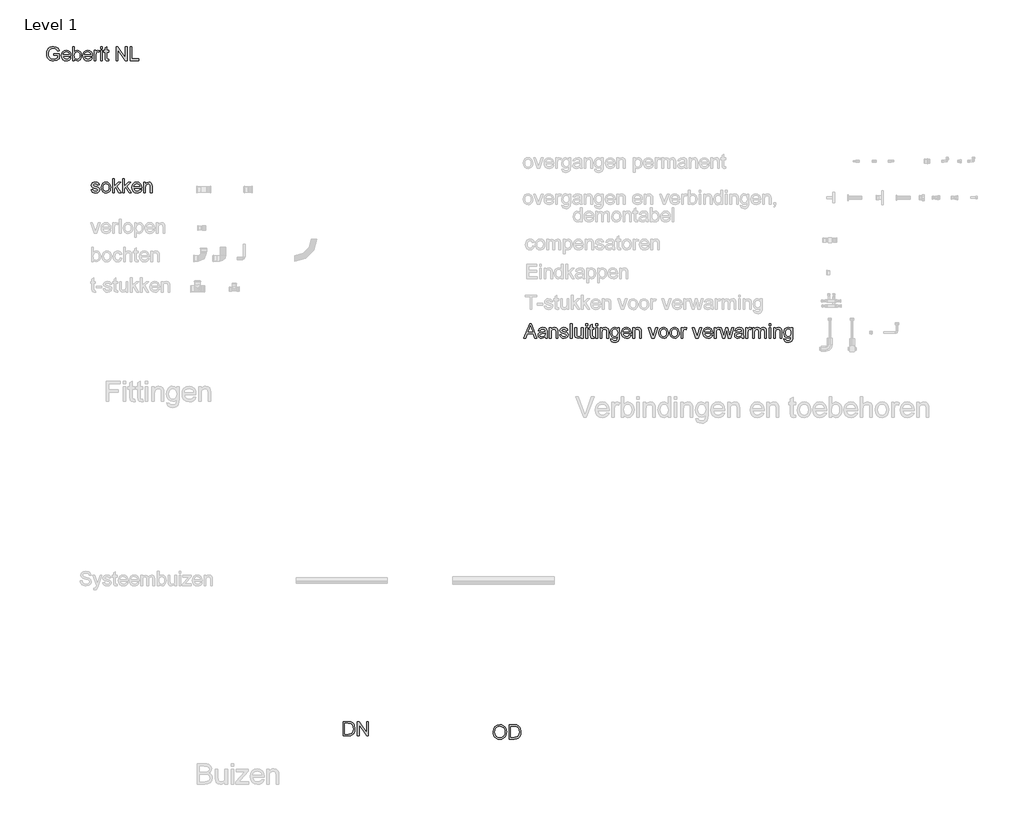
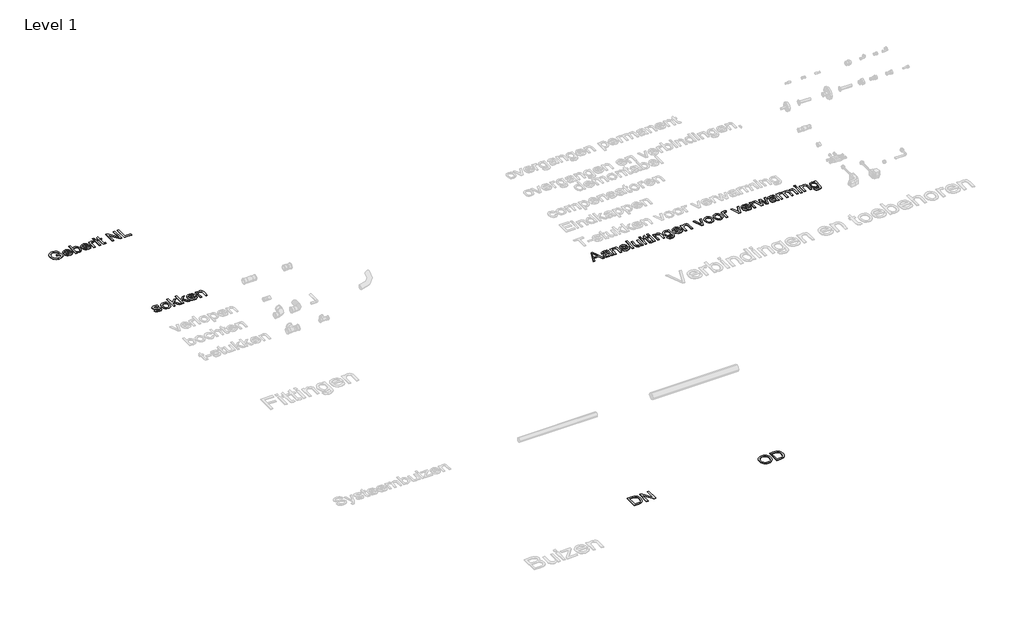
# One storey, part 3 of 8: 5 proxies.
"""IFC4 building model written with IfcOpenShell, lengths in millimetres."""

from ifc_helpers import new_model, si_unit, origin, origin_with_axes, place, context, project, spatial, polyline, outline, extrude, element, save

model = new_model("IFC4")

# Units and contexts
model_context = context("Model", 3, world=origin())
ifc_project = project(units=[si_unit("LENGTHUNIT", "METRE", prefix="MILLI")], contexts=[model_context])

# Site, building, storey
site = spatial("IfcSite", under=ifc_project)
building = spatial("IfcBuilding", under=site)
storey = spatial("IfcBuildingStorey", under=building, Name="Level 1", Elevation=0.0)

# Proxies
placement = place(None, origin())
element("IfcBuildingElementProxy", 1, Name="small", ObjectType="small", at=placement, inside=storey, context=model_context, shape_type="SweptSolid", body=[
    extrude(outline(polyline([(-2002.5257201, 6696.9325117), (-2002.5257201, 6714.1632809), (-1946.5257201, 6714.1632809), (-1946.5257201, 6662.6392425), (-1974.1723547, 6646.3844348), (-2003.4007201, 6640.9325117), (-2022.730648, 6643.0989781), (-2040.2012009, 6649.5983771), (-2054.714422, 6660.2035454), (-2065.1723547, 6674.6873194), (-2071.4950711, 6692.0611175), (-2073.6026432, 6711.3363579), (-2071.5034845, 6730.7504204), (-2065.2060086, 6748.8099156), (-2054.9710326, 6763.9583531), (-2041.0593739, 6774.6392425), (-2024.1146624, 6780.974579), (-2004.7805278, 6783.0863579), (-1977.823797, 6778.1897233), (-1958.9271624, 6764.5599156), (-1948.511297, 6741.7594348), (-1964.3959124, 6737.2834733), (-1972.2540855, 6753.2185694), (-1985.6819701, 6762.4060694), (-2005.0497586, 6765.8555886), (-2027.1098547, 6762.1368386), (-2042.1194701, 6752.3772233), (-2050.9872586, 6739.1007809), (-2056.3718739, 6712.0430886), (-2054.7522826, 6695.5653242), (-2049.8935086, 6682.0070309), (-2041.9427874, 6671.4649636), (-2031.0473547, 6664.0358771), (-2004.7805278, 6658.1632809), (-1981.2060086, 6662.5887617), (-1963.7564893, 6672.0286656), (-1963.7564893, 6696.9325117), (-2002.5257201, 6696.9325117)])), origin_with_axes(), (0.0, 0.0, 1.0), 5.0),
    extrude(outline(polyline([(-1849.8045662, 6673.240204), (-1832.9103355, 6671.0863579), (-1838.9974749, 6658.3567906), (-1848.7108162, 6648.8411656), (-1861.8316095, 6642.9096752), (-1878.1411047, 6640.9325117), (-1898.3586528, 6644.3441704), (-1913.9151432, 6654.5791463), (-1923.8346143, 6670.9727761), (-1927.1411047, 6692.8603963), (-1923.8009605, 6715.4841944), (-1913.7805278, 6732.4036656), (-1898.4343739, 6742.9541463), (-1879.1170662, 6746.4709733), (-1860.4013211, 6742.9625598), (-1845.4463932, 6732.4373194), (-1835.6405037, 6715.5515021), (-1832.3718739, 6692.9613579), (-1832.4728355, 6688.3171271), (-1909.9103355, 6688.3171271), (-1906.9277634, 6675.4192906), (-1899.9992778, 6665.9373194), (-1889.9998787, 6660.1067906), (-1877.8045662, 6658.1632809), (-1860.9103355, 6661.7642425), (-1849.8045662, 6673.240204)]), holes=[polyline([(-1909.9103355, 6705.5478963), (-1849.6026432, 6705.5478963), (-1856.5016816, 6721.1632809), (-1866.5473547, 6727.2209733), (-1879.1843739, 6729.240204), (-1890.7991576, 6727.6290261), (-1900.4031239, 6722.7954925), (-1907.0792057, 6715.2612377), (-1909.9103355, 6705.5478963)])]), origin_with_axes(), (0.0, 0.0, 1.0), 5.0),
    extrude(outline(polyline([(-1797.9103355, 6643.0863579), (-1815.1411047, 6643.0863579), (-1815.1411047, 6780.9325117), (-1797.9103355, 6780.9325117), (-1797.9103355, 6729.8123194), (-1785.8454316, 6742.3063098), (-1770.8526432, 6746.4709733), (-1753.5882201, 6742.7185694), (-1740.1939893, 6732.1680886), (-1731.9656239, 6715.7618386), (-1728.9872586, 6695.2161656), (-1732.0707922, 6672.2137617), (-1741.3213932, 6655.1007809), (-1754.8965134, 6644.474579), (-1770.9536047, 6640.9325117), (-1786.2745182, 6645.5010213), (-1797.9103355, 6659.2065502), (-1797.9103355, 6643.0863579)]), holes=[polyline([(-1797.9103355, 6694.4084733), (-1796.7324509, 6680.0382809), (-1793.198797, 6670.3123194), (-1784.1711528, 6661.2005406), (-1772.4343739, 6658.1632809), (-1762.4896624, 6660.4012617), (-1753.9920662, 6667.115204), (-1748.1615374, 6678.2630406), (-1746.2180278, 6693.802704), (-1748.0816095, 6709.5695309), (-1753.6723547, 6720.5911656), (-1761.9049268, 6727.0779444), (-1771.6939893, 6729.240204), (-1781.6387009, 6727.0022233), (-1790.136297, 6720.2882809), (-1795.9668259, 6709.3423675), (-1797.9103355, 6694.4084733)])]), origin_with_axes(), (0.0, 0.0, 1.0), 5.0),
    extrude(outline(polyline([(-1638.7276432, 6673.240204), (-1621.8334124, 6671.0863579), (-1627.9205518, 6658.3567906), (-1637.6338932, 6648.8411656), (-1650.7546864, 6642.9096752), (-1667.0641816, 6640.9325117), (-1687.2817297, 6644.3441704), (-1702.8382201, 6654.5791463), (-1712.7576912, 6670.9727761), (-1716.0641816, 6692.8603963), (-1712.7240374, 6715.4841944), (-1702.7036047, 6732.4036656), (-1687.3574509, 6742.9541463), (-1668.0401432, 6746.4709733), (-1649.324398, 6742.9625598), (-1634.3694701, 6732.4373194), (-1624.5635807, 6715.5515021), (-1621.2949509, 6692.9613579), (-1621.3959124, 6688.3171271), (-1698.8334124, 6688.3171271), (-1695.8508403, 6675.4192906), (-1688.9223547, 6665.9373194), (-1678.9229557, 6660.1067906), (-1666.7276432, 6658.1632809), (-1649.8334124, 6661.7642425), (-1638.7276432, 6673.240204)]), holes=[polyline([(-1698.8334124, 6705.5478963), (-1638.5257201, 6705.5478963), (-1645.4247586, 6721.1632809), (-1655.4704316, 6727.2209733), (-1668.1074509, 6729.240204), (-1679.7222345, 6727.6290261), (-1689.3262009, 6722.7954925), (-1696.0022826, 6715.2612377), (-1698.8334124, 6705.5478963)])]), origin_with_axes(), (0.0, 0.0, 1.0), 5.0),
    extrude(outline(polyline([(-1604.0641816, 6643.0863579), (-1604.0641816, 6744.3171271), (-1588.9872586, 6744.3171271), (-1588.9872586, 6729.3411656), (-1578.2853355, 6743.1392425), (-1567.5161047, 6746.4709733), (-1550.2180278, 6741.1536656), (-1555.9728355, 6725.7065502), (-1568.0882201, 6729.240204), (-1577.8310086, 6725.8411656), (-1584.0401432, 6716.4180886), (-1586.8334124, 6696.2930886), (-1586.8334124, 6643.0863579), (-1604.0641816, 6643.0863579)])), origin_with_axes(), (0.0, 0.0, 1.0), 5.0),
    extrude(outline(polyline([(-1539.448797, 6643.0863579), (-1539.448797, 6744.3171271), (-1522.2180278, 6744.3171271), (-1522.2180278, 6643.0863579), (-1539.448797, 6643.0863579)])), origin_with_axes(), (0.0, 0.0, 1.0), 5.0),
    extrude(outline(polyline([(-1539.448797, 6763.7017425), (-1539.448797, 6780.9325117), (-1522.2180278, 6780.9325117), (-1522.2180278, 6763.7017425), (-1539.448797, 6763.7017425)])), origin_with_axes(), (0.0, 0.0, 1.0), 5.0),
    extrude(outline(polyline([(-1459.7564893, 6657.4565502), (-1457.6026432, 6642.5815502), (-1470.4920662, 6640.9325117), (-1484.9295662, 6643.7930886), (-1492.1314893, 6651.2978963), (-1494.2180278, 6670.8507809), (-1494.2180278, 6727.0863579), (-1507.1411047, 6727.0863579), (-1507.1411047, 6744.3171271), (-1494.2180278, 6744.3171271), (-1494.2180278, 6768.9180886), (-1476.9872586, 6779.0478963), (-1476.9872586, 6744.3171271), (-1459.7564893, 6744.3171271), (-1459.7564893, 6727.0863579), (-1476.9872586, 6727.0863579), (-1476.9872586, 6671.3555886), (-1476.0786047, 6662.4709733), (-1473.1338932, 6659.3243386), (-1467.261297, 6658.1632809), (-1459.7564893, 6657.4565502)])), origin_with_axes(), (0.0, 0.0, 1.0), 5.0),
    extrude(outline(polyline([(-1386.5257201, 6643.0863579), (-1386.5257201, 6780.9325117), (-1368.0834124, 6780.9325117), (-1296.0641816, 6671.7257809), (-1296.0641816, 6780.9325117), (-1278.8334124, 6780.9325117), (-1278.8334124, 6643.0863579), (-1297.2757201, 6643.0863579), (-1369.2949509, 6752.3267425), (-1369.2949509, 6643.0863579), (-1386.5257201, 6643.0863579)])), origin_with_axes(), (0.0, 0.0, 1.0), 5.0),
    extrude(outline(polyline([(-1248.6795662, 6643.0863579), (-1248.6795662, 6780.9325117), (-1231.448797, 6780.9325117), (-1231.448797, 6660.3171271), (-1162.5257201, 6660.3171271), (-1162.5257201, 6643.0863579), (-1248.6795662, 6643.0863579)])), origin_with_axes(), (0.0, 0.0, 1.0), 5.0),
])
element("IfcBuildingElementProxy", 2, Name="small", ObjectType="small", at=placement, inside=storey, context=model_context, shape_type="SweptSolid", body=[
    extrude(outline(polyline([(-1634.2213178, 5369.7266941), (-1616.6414635, 5371.9241758), (-1613.8688595, 5364.4046679), (-1608.5039138, 5358.8766277), (-1589.8596543, 5354.3443216), (-1571.9364435, 5358.4989356), (-1566.0993825, 5368.250261), (-1571.9707791, 5376.1474611), (-1590.0656682, 5381.1604665), (-1616.5384566, 5389.7615475), (-1628.0924038, 5399.804726), (-1632.023836, 5413.9853506), (-1628.8649559, 5427.0844022), (-1620.2467071, 5437.093245), (-1609.0704521, 5442.2950964), (-1593.945597, 5444.4410747), (-1572.5544852, 5440.9903416), (-1558.9575667, 5431.651044), (-1552.9144918, 5415.8738115), (-1570.494346, 5413.6763297), (-1577.1039592, 5423.3761517), (-1592.5721708, 5426.8612205), (-1609.3966408, 5423.5306621), (-1614.4439817, 5415.7708046), (-1612.3495069, 5410.6547923), (-1605.7913972, 5406.7748635), (-1590.6493743, 5403.0322774), (-1564.8461311, 5394.757385), (-1552.8629883, 5385.3837518), (-1548.5195282, 5370.1043862), (-1553.6183727, 5353.2799163), (-1568.3311999, 5341.0735917), (-1590.1000038, 5336.7644673), (-1607.8257846, 5338.8417743), (-1620.7617419, 5345.0736953), (-1629.3971586, 5355.391559), (-1634.2213178, 5369.7266941)])), origin_with_axes(), (0.0, 0.0, 1.0), 5.0),
    extrude(outline(polyline([(-1533.1371557, 5390.602771), (-1529.3344821, 5415.5047033), (-1517.9264615, 5433.0073023), (-1503.831676, 5441.5826316), (-1486.9557026, 5444.4410747), (-1468.4874133, 5440.9602979), (-1453.7359584, 5430.5179675), (-1444.0661802, 5413.9381391), (-1440.8429208, 5392.0448684), (-1442.2678504, 5374.284752), (-1446.5426391, 5360.7650887), (-1453.5428204, 5350.640363), (-1463.1439273, 5343.0650596), (-1474.547656, 5338.3396154), (-1486.9557026, 5336.7644673), (-1505.6471736, 5340.2323682), (-1520.3814607, 5350.6360711), (-1529.9482319, 5367.5635479), (-1533.1371557, 5390.602771)]), holes=[polyline([(-1515.5573014, 5390.6371067), (-1513.522914, 5374.7268235), (-1507.4197517, 5363.3917661), (-1498.2349646, 5356.6061827), (-1486.9557026, 5354.3443216), (-1475.7279441, 5356.6190586), (-1466.5603248, 5363.4432696), (-1460.4571625, 5374.9285455), (-1458.422775, 5391.1864771), (-1460.4700383, 5406.6332289), (-1466.6118282, 5417.8137759), (-1475.7923234, 5424.5993593), (-1486.9557026, 5426.8612205), (-1498.2349646, 5424.6079432), (-1507.4197517, 5417.8481116), (-1513.522914, 5406.5388059), (-1515.5573014, 5390.6371067)])]), origin_with_axes(), (0.0, 0.0, 1.0), 5.0),
    extrude(outline(polyline([(-1421.0655847, 5338.9619491), (-1421.0655847, 5479.6007833), (-1403.4857304, 5479.6007833), (-1403.4857304, 5404.0280113), (-1364.0684009, 5442.2435929), (-1339.7587587, 5442.2435929), (-1379.6567873, 5403.5473121), (-1337.5612769, 5338.9619491), (-1358.0939973, 5338.9619491), (-1392.2579719, 5391.3238197), (-1403.4857304, 5380.4394178), (-1403.4857304, 5338.9619491), (-1421.0655847, 5338.9619491)])), origin_with_axes(), (0.0, 0.0, 1.0), 5.0),
    extrude(outline(polyline([(-1322.1789044, 5338.9619491), (-1322.1789044, 5479.6007833), (-1304.5990501, 5479.6007833), (-1304.5990501, 5404.0280113), (-1265.1817206, 5442.2435929), (-1240.8720784, 5442.2435929), (-1280.770107, 5403.5473121), (-1238.6745966, 5338.9619491), (-1259.207317, 5338.9619491), (-1293.3712916, 5391.3238197), (-1304.5990501, 5380.4394178), (-1304.5990501, 5338.9619491), (-1322.1789044, 5338.9619491)])), origin_with_axes(), (0.0, 0.0, 1.0), 5.0),
    extrude(outline(polyline([(-1150.9813391, 5369.7266941), (-1133.7448414, 5367.5292123), (-1139.9553026, 5354.5417516), (-1149.8654304, 5344.8333457), (-1163.2520431, 5338.7816869), (-1179.8919588, 5336.7644673), (-1200.5191023, 5340.2452441), (-1216.3907579, 5350.6875745), (-1226.5111915, 5367.4133294), (-1229.8846694, 5389.7443797), (-1226.4768559, 5412.8265223), (-1216.2534152, 5430.0887718), (-1200.5963575, 5440.852999), (-1180.8876928, 5444.4410747), (-1161.7927778, 5440.8615829), (-1146.5348721, 5430.1231075), (-1136.5303212, 5412.8951936), (-1133.1954709, 5389.8473866), (-1133.2984779, 5385.1090665), (-1212.3048152, 5385.1090665), (-1209.2618179, 5371.9499276), (-1202.1929654, 5362.2758574), (-1191.9909845, 5356.3272055), (-1179.5486023, 5354.3443216), (-1162.3121046, 5358.0182364), (-1150.9813391, 5369.7266941)]), holes=[polyline([(-1212.3048152, 5402.6889208), (-1150.7753252, 5402.6889208), (-1157.814134, 5418.6206638), (-1168.0633264, 5424.8010813), (-1180.9563641, 5426.8612205), (-1192.8064563, 5425.2174011), (-1202.6049932, 5420.2859429), (-1209.4163284, 5412.5990486), (-1212.3048152, 5402.6889208)])]), origin_with_axes(), (0.0, 0.0, 1.0), 5.0),
    extrude(outline(polyline([(-1115.6156166, 5338.9619491), (-1115.6156166, 5442.2435929), (-1098.0357624, 5442.2435929), (-1098.0357624, 5427.8226187), (-1084.5933543, 5440.2864607), (-1066.2409478, 5444.4410747), (-1049.6396596, 5441.0933486), (-1038.3088942, 5432.3034214), (-1033.0383715, 5419.3760481), (-1032.1113088, 5402.3798999), (-1032.1113088, 5338.9619491), (-1049.6911631, 5338.9619491), (-1049.6911631, 5400.0107399), (-1051.7169666, 5415.5647907), (-1058.8759503, 5423.7881795), (-1070.9449322, 5426.8612205), (-1081.2413362, 5425.1358539), (-1090.0183874, 5419.9597542), (-1096.0314186, 5409.9594953), (-1098.0357624, 5393.7616511), (-1098.0357624, 5338.9619491), (-1115.6156166, 5338.9619491)])), origin_with_axes(), (0.0, 0.0, 1.0), 5.0),
])
element("IfcBuildingElementProxy", 3, Name="small", ObjectType="small", at=placement, inside=storey, context=model_context, shape_type="SweptSolid", body=[
    extrude(outline(polyline([(2641.2458391, 3903.8433327), (2697.3846315, 4044.4821669), (2712.3549762, 4044.4821669), (2768.4937686, 3903.8433327), (2749.9181804, 3903.8433327), (2733.8147592, 3947.7929684), (2675.8905128, 3947.7929684), (2659.8214273, 3903.8433327), (2641.2458391, 3903.8433327)]), holes=[polyline([(2682.3456156, 3965.3728227), (2727.3939921, 3965.3728227), (2714.7241362, 3999.9488251), (2704.8698038, 4026.9023126), (2696.1142124, 4002.9703626), (2682.3456156, 3965.3728227)])]), origin_with_axes(), (0.0, 0.0, 1.0), 5.0),
    extrude(outline(polyline([(2851.0023425, 3917.0282234), (2833.9546909, 3905.1137518), (2815.1215853, 3901.6458509), (2800.4302178, 3903.7317418), (2789.5930273, 3909.9894146), (2782.9104509, 3919.4918065), (2780.6829254, 3931.311855), (2784.0478194, 3945.2177944), (2792.88925, 3955.3124764), (2805.1985816, 3961.080866), (2820.4092758, 3963.7247113), (2850.8993356, 3969.7677862), (2851.0023425, 3973.6820507), (2849.7920108, 3981.5277473), (2846.1610155, 3986.6609274), (2838.0406336, 3990.4721849), (2826.7270359, 3991.7426041), (2808.9411677, 3988.3605423), (2800.4602615, 3976.3602316), (2782.8804072, 3978.5577134), (2790.4857543, 3995.7255398), (2805.7994555, 4005.7858861), (2828.993189, 4009.3224583), (2850.2984616, 4006.1979139), (2862.333108, 3998.3522173), (2867.7238055, 3986.4205779), (2868.5821968, 3971.0382054), (2868.5821968, 3949.1663945), (2869.4749238, 3918.6248313), (2872.9771604, 3903.8433327), (2855.3973061, 3903.8433327), (2851.0023425, 3917.0282234)]), holes=[polyline([(2851.0023425, 3952.187932), (2822.6410932, 3946.7972344), (2807.5162381, 3943.9473753), (2800.6662754, 3939.3120621), (2798.2627797, 3932.5479385), (2803.4989668, 3923.0369627), (2818.8641714, 3919.2257052), (2836.6500396, 3923.4318227), (2848.1181477, 3933.6123437), (2850.8993356, 3947.2092623), (2851.0023425, 3952.187932)])]), origin_with_axes(), (0.0, 0.0, 1.0), 5.0),
    extrude(outline(polyline([(2892.7544964, 3903.8433327), (2892.7544964, 4007.1249766), (2910.3343507, 4007.1249766), (2910.3343507, 3992.7040024), (2923.7767588, 4005.1678443), (2942.1291653, 4009.3224583), (2958.7304534, 4005.9747322), (2970.0612189, 3997.1848051), (2975.3317416, 3984.2574317), (2976.2588042, 3967.2612836), (2976.2588042, 3903.8433327), (2958.67895, 3903.8433327), (2958.67895, 3964.8921235), (2956.6531464, 3980.4461743), (2949.4941628, 3988.6695631), (2937.4251808, 3991.7426041), (2927.1287769, 3990.0172375), (2918.3517256, 3984.8411378), (2912.3386944, 3974.8408789), (2910.3343507, 3958.6430347), (2910.3343507, 3903.8433327), (2892.7544964, 3903.8433327)])), origin_with_axes(), (0.0, 0.0, 1.0), 5.0),
    extrude(outline(polyline([(2993.8386585, 3934.6080777), (3011.4185128, 3936.8055595), (3014.1911168, 3929.2860515), (3019.5560625, 3923.7580114), (3038.200322, 3919.2257052), (3056.1235328, 3923.3803192), (3061.9605938, 3933.1316446), (3056.0891972, 3941.0288448), (3037.9943081, 3946.0418501), (3011.5215197, 3954.6429311), (2999.9675726, 3964.6861096), (2996.0361403, 3978.8667342), (2999.1950204, 3991.9657858), (3007.8132692, 4001.9746286), (3018.9895242, 4007.17648), (3034.1143793, 4009.3224583), (3055.5054911, 4005.8717252), (3069.1024096, 3996.5324276), (3075.1454845, 3980.7551952), (3057.5656303, 3978.5577134), (3050.9560171, 3988.2575353), (3035.4878055, 3991.7426041), (3018.6633355, 3988.4120457), (3013.6159946, 3980.6521882), (3015.7104694, 3975.5361759), (3022.2685791, 3971.6562471), (3037.410602, 3967.913661), (3063.2138452, 3959.6387686), (3075.196988, 3950.2651354), (3079.5404481, 3934.9857699), (3074.4416037, 3918.1612999), (3059.7287764, 3905.9549753), (3037.9599725, 3901.6458509), (3020.2341917, 3903.7231579), (3007.2982344, 3909.9550789), (2998.6628177, 3920.2729426), (2993.8386585, 3934.6080777)])), origin_with_axes(), (0.0, 0.0, 1.0), 5.0),
    extrude(outline(polyline([(3099.3177842, 3903.8433327), (3099.3177842, 4044.4821669), (3116.8976384, 4044.4821669), (3116.8976384, 3903.8433327), (3099.3177842, 3903.8433327)])), origin_with_axes(), (0.0, 0.0, 1.0), 5.0),
    extrude(outline(polyline([(3209.1918734, 3903.8433327), (3209.1918734, 3921.5948652), (3195.4232766, 3906.6331045), (3177.4657301, 3901.6458509), (3160.9331133, 3905.1480875), (3149.5336765, 3913.9380146), (3144.2974894, 3926.8825558), (3143.2674199, 3943.2263265), (3143.2674199, 4007.1249766), (3160.8472741, 4007.1249766), (3160.8472741, 3951.5012189), (3161.9116794, 3933.5780081), (3168.8646491, 3923.0541305), (3181.9637007, 3919.2257052), (3196.6421923, 3923.1399696), (3206.3420142, 3933.8011898), (3209.1918734, 3953.3896798), (3209.1918734, 4007.1249766), (3226.7717277, 4007.1249766), (3226.7717277, 3903.8433327), (3209.1918734, 3903.8433327)])), origin_with_axes(), (0.0, 0.0, 1.0), 5.0),
    extrude(outline(polyline([(3250.9440273, 4026.9023126), (3250.9440273, 4044.4821669), (3268.5238816, 4044.4821669), (3268.5238816, 4026.9023126), (3250.9440273, 4026.9023126)])), origin_with_axes(), (0.0, 0.0, 1.0), 5.0),
    extrude(outline(polyline([(3250.9440273, 3903.8433327), (3250.9440273, 4007.1249766), (3268.5238816, 4007.1249766), (3268.5238816, 3903.8433327), (3250.9440273, 3903.8433327)])), origin_with_axes(), (0.0, 0.0, 1.0), 5.0),
    extrude(outline(polyline([(3332.2508533, 3918.5046565), (3334.4483351, 3903.3282979), (3321.2977801, 3901.6458509), (3306.567785, 3904.5643814), (3299.2199553, 3912.221232), (3297.0911448, 3932.1702463), (3297.0911448, 3989.5451223), (3283.9062541, 3989.5451223), (3283.9062541, 4007.1249766), (3297.0911448, 4007.1249766), (3297.0911448, 4032.2243388), (3314.6709991, 4042.5593703), (3314.6709991, 4007.1249766), (3332.2508533, 4007.1249766), (3332.2508533, 3989.5451223), (3314.6709991, 3989.5451223), (3314.6709991, 3932.6852811), (3315.5980617, 3923.6206688), (3318.6024313, 3920.4102852), (3324.5940027, 3919.2257052), (3332.2508533, 3918.5046565)])), origin_with_axes(), (0.0, 0.0, 1.0), 5.0),
    extrude(outline(polyline([(3349.8307076, 4026.9023126), (3349.8307076, 4044.4821669), (3367.4105619, 4044.4821669), (3367.4105619, 4026.9023126), (3349.8307076, 4026.9023126)])), origin_with_axes(), (0.0, 0.0, 1.0), 5.0),
    extrude(outline(polyline([(3349.8307076, 3903.8433327), (3349.8307076, 4007.1249766), (3367.4105619, 4007.1249766), (3367.4105619, 3903.8433327), (3349.8307076, 3903.8433327)])), origin_with_axes(), (0.0, 0.0, 1.0), 5.0),
    extrude(outline(polyline([(3393.7803433, 3903.8433327), (3393.7803433, 4007.1249766), (3411.3601976, 4007.1249766), (3411.3601976, 3992.7040024), (3424.8026057, 4005.1678443), (3443.1550121, 4009.3224583), (3459.7563003, 4005.9747322), (3471.0870658, 3997.1848051), (3476.3575885, 3984.2574317), (3477.2846511, 3967.2612836), (3477.2846511, 3903.8433327), (3459.7047968, 3903.8433327), (3459.7047968, 3964.8921235), (3457.6789933, 3980.4461743), (3450.5200097, 3988.6695631), (3438.4510277, 3991.7426041), (3428.1546238, 3990.0172375), (3419.3775725, 3984.8411378), (3413.3645413, 3974.8408789), (3411.3601976, 3958.6430347), (3411.3601976, 3903.8433327), (3393.7803433, 3903.8433327)])), origin_with_axes(), (0.0, 0.0, 1.0), 5.0),
    extrude(outline(polyline([(3497.0619872, 3895.0534056), (3514.6418414, 3892.8559238), (3520.3415598, 3883.5852975), (3537.4063793, 3879.6710331), (3555.3982614, 3884.1003323), (3563.9821746, 3896.5298386), (3565.1839225, 3917.0282234), (3552.8059196, 3907.1395554), (3537.7154002, 3903.8433327), (3519.5904674, 3907.6803419), (3506.075096, 3919.1913695), (3497.667153, 3936.0673429), (3494.8645054, 3955.9991894), (3499.8946785, 3983.24453), (3506.0493443, 3994.3049022), (3514.4529954, 4002.5239991), (3524.8180706, 4007.6228435), (3536.8570089, 4009.3224583), (3552.5398183, 4005.4768652), (3565.1839225, 3993.9400859), (3565.1839225, 4007.1249766), (3582.7637768, 4007.1249766), (3582.7637768, 3917.955286), (3581.5620289, 3897.3667702), (3577.9567854, 3883.8084792), (3571.7463241, 3874.8168301), (3562.7289233, 3867.9282398), (3551.1020128, 3863.550444), (3537.0630228, 3862.0911788), (3520.7063761, 3864.147026), (3507.8262143, 3870.3145677), (3499.5641979, 3880.6109716), (3497.0619872, 3895.0534056)]), holes=[polyline([(3512.4443597, 3957.2009373), (3514.3199447, 3941.0760563), (3519.9466998, 3929.9899324), (3528.4061463, 3923.5648733), (3538.7798054, 3921.423187), (3549.0762093, 3923.5519974), (3557.5785754, 3929.9384289), (3563.2825857, 3940.8829182), (3565.1839225, 3956.6859025), (3563.2267903, 3971.9266404), (3557.3553936, 3982.9011735), (3548.7285608, 3989.5322464), (3538.5051202, 3991.7426041), (3528.4662337, 3989.5665821), (3520.0497068, 3983.0385161), (3514.3456964, 3972.2270774), (3512.4443597, 3957.2009373)])]), origin_with_axes(), (0.0, 0.0, 1.0), 5.0),
    extrude(outline(polyline([(3681.4444431, 3934.6080777), (3698.6809409, 3932.4105959), (3692.4704797, 3919.4231352), (3682.5603519, 3909.7147293), (3669.1737392, 3903.6630705), (3652.5338234, 3901.6458509), (3631.90668, 3905.1266277), (3616.0350244, 3915.5689582), (3605.9145907, 3932.2947131), (3602.5411128, 3954.6257633), (3605.9489264, 3977.707906), (3616.172367, 3994.9701554), (3631.8294247, 4005.7343826), (3651.5380895, 4009.3224583), (3670.6330044, 4005.7429665), (3685.8909102, 3995.0044911), (3695.8954611, 3977.7765773), (3699.2303113, 3954.7287703), (3699.1273044, 3949.9904502), (3620.1209671, 3949.9904502), (3623.1639643, 3936.8313112), (3630.2328169, 3927.157241), (3640.4347977, 3921.2085891), (3652.87718, 3919.2257052), (3670.1136777, 3922.89962), (3681.4444431, 3934.6080777)]), holes=[polyline([(3620.1209671, 3967.5703044), (3681.6504571, 3967.5703044), (3674.6116482, 3983.5020474), (3664.3624558, 3989.6824649), (3651.4694182, 3991.7426041), (3639.619326, 3990.0987847), (3629.820789, 3985.1673265), (3623.0094539, 3977.4804323), (3620.1209671, 3967.5703044)])]), origin_with_axes(), (0.0, 0.0, 1.0), 5.0),
    extrude(outline(polyline([(3716.8101656, 3903.8433327), (3716.8101656, 4007.1249766), (3734.3900199, 4007.1249766), (3734.3900199, 3992.7040024), (3747.832428, 4005.1678443), (3766.1848345, 4009.3224583), (3782.7861226, 4005.9747322), (3794.1168881, 3997.1848051), (3799.3874108, 3984.2574317), (3800.3144734, 3967.2612836), (3800.3144734, 3903.8433327), (3782.7346192, 3903.8433327), (3782.7346192, 3964.8921235), (3780.7088156, 3980.4461743), (3773.549832, 3988.6695631), (3761.48085, 3991.7426041), (3751.1844461, 3990.0172375), (3742.4073948, 3984.8411378), (3736.3943636, 3974.8408789), (3734.3900199, 3958.6430347), (3734.3900199, 3903.8433327), (3716.8101656, 3903.8433327)])), origin_with_axes(), (0.0, 0.0, 1.0), 5.0),
    extrude(outline(polyline([(3904.7635295, 3903.8433327), (3868.4364088, 4007.1249766), (3887.0463326, 4007.1249766), (3909.0554861, 3945.2521301), (3915.6822671, 3924.4447244), (3922.1717055, 3944.0847179), (3944.3182016, 4007.1249766), (3962.9281255, 4007.1249766), (3927.0473682, 3903.8433327), (3904.7635295, 3903.8433327)])), origin_with_axes(), (0.0, 0.0, 1.0), 5.0),
    extrude(outline(polyline([(3973.9155344, 3955.4841546), (3977.718208, 3980.3860869), (3989.1262286, 3997.8886859), (4003.2210141, 4006.4640152), (4020.0969875, 4009.3224583), (4038.5652768, 4005.8416815), (4053.3167317, 3995.3993511), (4062.9865099, 3978.8195227), (4066.2097694, 3956.926252), (4064.7848398, 3939.1661356), (4060.510051, 3925.6464723), (4053.5098697, 3915.5217466), (4043.9087628, 3907.9464432), (4032.5050341, 3903.220999), (4020.0969875, 3901.6458509), (4001.4055165, 3905.1137518), (3986.6712295, 3915.5174547), (3977.1044582, 3932.4449315), (3973.9155344, 3955.4841546)]), holes=[polyline([(3991.4953887, 3955.5184903), (3993.5297761, 3939.6082071), (3999.6329384, 3928.2731497), (4008.8177256, 3921.4875663), (4020.0969875, 3919.2257052), (4031.324746, 3921.5004422), (4040.4923653, 3928.3246532), (4046.5955276, 3939.8099291), (4048.6299151, 3956.0678607), (4046.5826518, 3971.5146126), (4040.4408619, 3982.6951595), (4031.2603667, 3989.4807429), (4020.0969875, 3991.7426041), (4008.8177256, 3989.4893269), (3999.6329384, 3982.7294952), (3993.5297761, 3971.4201895), (3991.4953887, 3955.5184903)])]), origin_with_axes(), (0.0, 0.0, 1.0), 5.0),
    extrude(outline(polyline([(4081.5921418, 3955.4841546), (4085.3948154, 3980.3860869), (4096.8028361, 3997.8886859), (4110.8976216, 4006.4640152), (4127.773595, 4009.3224583), (4146.2418843, 4005.8416815), (4160.9933391, 3995.3993511), (4170.6631174, 3978.8195227), (4173.8863768, 3956.926252), (4172.4614472, 3939.1661356), (4168.1866584, 3925.6464723), (4161.1864772, 3915.5217466), (4151.5853703, 3907.9464432), (4140.1816415, 3903.220999), (4127.773595, 3901.6458509), (4109.0821239, 3905.1137518), (4094.3478369, 3915.5174547), (4084.7810656, 3932.4449315), (4081.5921418, 3955.4841546)]), holes=[polyline([(4099.1719961, 3955.5184903), (4101.2063836, 3939.6082071), (4107.3095459, 3928.2731497), (4116.494333, 3921.4875663), (4127.773595, 3919.2257052), (4139.0013535, 3921.5004422), (4148.1689728, 3928.3246532), (4154.2721351, 3939.8099291), (4156.3065225, 3956.0678607), (4154.2592592, 3971.5146126), (4148.1174693, 3982.6951595), (4138.9369741, 3989.4807429), (4127.773595, 3991.7426041), (4116.494333, 3989.4893269), (4107.3095459, 3982.7294952), (4101.2063836, 3971.4201895), (4099.1719961, 3955.5184903)])]), origin_with_axes(), (0.0, 0.0, 1.0), 5.0),
    extrude(outline(polyline([(4193.6637129, 3903.8433327), (4193.6637129, 4007.1249766), (4209.0460854, 4007.1249766), (4209.0460854, 3991.845611), (4219.964823, 4005.9232287), (4230.9522319, 4009.3224583), (4248.6007575, 4003.8974252), (4242.7293608, 3988.1373605), (4230.3685258, 3991.7426041), (4220.4283543, 3988.2747031), (4214.0934263, 3978.6607203), (4211.2435671, 3958.1279999), (4211.2435671, 3903.8433327), (4193.6637129, 3903.8433327)])), origin_with_axes(), (0.0, 0.0, 1.0), 5.0),
    extrude(outline(polyline([(4339.8649228, 3903.8433327), (4303.5378021, 4007.1249766), (4322.1477259, 4007.1249766), (4344.1568794, 3945.2521301), (4350.7836605, 3924.4447244), (4357.2730988, 3944.0847179), (4379.419595, 4007.1249766), (4398.0295188, 4007.1249766), (4362.1487616, 3903.8433327), (4339.8649228, 3903.8433327)])), origin_with_axes(), (0.0, 0.0, 1.0), 5.0),
    extrude(outline(polyline([(4485.7227763, 3934.6080777), (4502.959274, 3932.4105959), (4496.7488128, 3919.4231352), (4486.838685, 3909.7147293), (4473.4520723, 3903.6630705), (4456.8121566, 3901.6458509), (4436.1850131, 3905.1266277), (4420.3133575, 3915.5689582), (4410.1929239, 3932.2947131), (4406.819446, 3954.6257633), (4410.2272595, 3977.707906), (4420.4507002, 3994.9701554), (4436.1077579, 4005.7343826), (4455.8164226, 4009.3224583), (4474.9113376, 4005.7429665), (4490.1692433, 3995.0044911), (4500.1737942, 3977.7765773), (4503.5086445, 3954.7287703), (4503.4056375, 3949.9904502), (4424.3993002, 3949.9904502), (4427.4422975, 3936.8313112), (4434.51115, 3927.157241), (4444.7131309, 3921.2085891), (4457.1555131, 3919.2257052), (4474.3920108, 3922.89962), (4485.7227763, 3934.6080777)]), holes=[polyline([(4424.3993002, 3967.5703044), (4485.9287902, 3967.5703044), (4478.8899814, 3983.5020474), (4468.640789, 3989.6824649), (4455.7477513, 3991.7426041), (4443.8976591, 3990.0987847), (4434.0991222, 3985.1673265), (4427.287787, 3977.4804323), (4424.3993002, 3967.5703044)])]), origin_with_axes(), (0.0, 0.0, 1.0), 5.0),
    extrude(outline(polyline([(4604.1464431, 3903.8433327), (4574.7514289, 4000.4774338), (4570.1541467, 3988.1373605), (4557.7933117, 3991.7426041), (4547.8531402, 3988.2747031), (4541.5182122, 3978.6607203), (4538.668353, 3958.1279999), (4538.668353, 3903.8433327), (4521.0884988, 3903.8433327), (4521.0884988, 4007.1249766), (4536.4708712, 4007.1249766), (4536.4708712, 3991.845611), (4547.3896089, 4005.9232287), (4558.3770178, 4009.3224583), (4573.47237, 4004.6822528), (4572.7293207, 4007.1249766), (4590.995888, 4007.1249766), (4608.8160919, 3946.8659058), (4614.1381181, 3925.3374514), (4618.498746, 3946.0761857), (4632.6793706, 4007.1249766), (4653.6241189, 4007.1249766), (4667.7360722, 3946.247864), (4671.616001, 3927.4662619), (4677.1783768, 3947.2779336), (4695.0329163, 4007.1249766), (4713.3681549, 4007.1249766), (4681.7106829, 3903.8433327), (4660.4569138, 3903.8433327), (4646.9630022, 3964.4114244), (4643.0487378, 3983.2960335), (4625.6405618, 3903.8433327), (4604.1464431, 3903.8433327)])), origin_with_axes(), (0.0, 0.0, 1.0), 5.0),
    extrude(outline(polyline([(4791.3787583, 3917.0282234), (4774.3311066, 3905.1137518), (4755.498001, 3901.6458509), (4740.8066335, 3903.7317418), (4729.9694431, 3909.9894146), (4723.2868666, 3919.4918065), (4721.0593411, 3931.311855), (4724.4242351, 3945.2177944), (4733.2656657, 3955.3124764), (4745.5749973, 3961.080866), (4760.7856915, 3963.7247113), (4791.2757513, 3969.7677862), (4791.3787583, 3973.6820507), (4790.1684265, 3981.5277473), (4786.5374312, 3986.6609274), (4778.4170493, 3990.4721849), (4767.1034517, 3991.7426041), (4749.3175835, 3988.3605423), (4740.8366772, 3976.3602316), (4723.2568229, 3978.5577134), (4730.86217, 3995.7255398), (4746.1758712, 4005.7858861), (4769.3696048, 4009.3224583), (4790.6748774, 4006.1979139), (4802.7095237, 3998.3522173), (4808.1002212, 3986.4205779), (4808.9586125, 3971.0382054), (4808.9586125, 3949.1663945), (4809.8513395, 3918.6248313), (4813.3535761, 3903.8433327), (4795.7737218, 3903.8433327), (4791.3787583, 3917.0282234)]), holes=[polyline([(4791.3787583, 3952.187932), (4763.017509, 3946.7972344), (4747.8926539, 3943.9473753), (4741.0426911, 3939.3120621), (4738.6391954, 3932.5479385), (4743.8753825, 3923.0369627), (4759.2405872, 3919.2257052), (4777.0264553, 3923.4318227), (4788.4945634, 3933.6123437), (4791.2757513, 3947.2092623), (4791.3787583, 3952.187932)])]), origin_with_axes(), (0.0, 0.0, 1.0), 5.0),
    extrude(outline(polyline([(4833.1309122, 3903.8433327), (4833.1309122, 4007.1249766), (4848.5132846, 4007.1249766), (4848.5132846, 3991.845611), (4859.4320223, 4005.9232287), (4870.4194312, 4009.3224583), (4888.0679568, 4003.8974252), (4882.1965601, 3988.1373605), (4869.8357251, 3991.7426041), (4859.8955536, 3988.2747031), (4853.5606256, 3978.6607203), (4850.7107664, 3958.1279999), (4850.7107664, 3903.8433327), (4833.1309122, 3903.8433327)])), origin_with_axes(), (0.0, 0.0, 1.0), 5.0),
    extrude(outline(polyline([(4899.0553657, 3903.8433327), (4899.0553657, 4007.1249766), (4916.63522, 4007.1249766), (4916.63522, 3990.1288284), (4928.7213698, 4004.0519356), (4945.9235319, 4009.3224583), (4963.5377218, 4003.9489287), (4973.2203759, 3988.8927449), (4986.9374692, 4004.21503), (5004.2598061, 4009.3224583), (5017.4747405, 4007.1979398), (5027.2475257, 4000.8243843), (5033.2863087, 3990.0301134), (5035.2992363, 3974.6434489), (5035.2992363, 3903.8433327), (5017.7193821, 3903.8433327), (5017.7193821, 3967.0896053), (5016.0884385, 3981.7680969), (5010.1827062, 3988.9957518), (5000.1395278, 3991.7426041), (4990.6156761, 3989.9829019), (4982.8515266, 3984.7037952), (4977.6883028, 3975.5447598), (4975.9672282, 3962.1452713), (4975.9672282, 3903.8433327), (4958.3873739, 3903.8433327), (4958.3873739, 3969.0467375), (4954.318599, 3986.0772213), (4948.9493613, 3990.3262584), (4940.9791979, 3991.7426041), (4927.9659854, 3987.9656823), (4919.3134009, 3976.909602), (4916.63522, 3955.9305181), (4916.63522, 3903.8433327), (4899.0553657, 3903.8433327)])), origin_with_axes(), (0.0, 0.0, 1.0), 5.0),
    extrude(outline(polyline([(5061.6690177, 4026.9023126), (5061.6690177, 4044.4821669), (5079.248872, 4044.4821669), (5079.248872, 4026.9023126), (5061.6690177, 4026.9023126)])), origin_with_axes(), (0.0, 0.0, 1.0), 5.0),
    extrude(outline(polyline([(5061.6690177, 3903.8433327), (5061.6690177, 4007.1249766), (5079.248872, 4007.1249766), (5079.248872, 3903.8433327), (5061.6690177, 3903.8433327)])), origin_with_axes(), (0.0, 0.0, 1.0), 5.0),
    extrude(outline(polyline([(5105.6186534, 3903.8433327), (5105.6186534, 4007.1249766), (5123.1985077, 4007.1249766), (5123.1985077, 3992.7040024), (5136.6409158, 4005.1678443), (5154.9933223, 4009.3224583), (5171.5946105, 4005.9747322), (5182.9253759, 3997.1848051), (5188.1958986, 3984.2574317), (5189.1229612, 3967.2612836), (5189.1229612, 3903.8433327), (5171.543107, 3903.8433327), (5171.543107, 3964.8921235), (5169.5173035, 3980.4461743), (5162.3583198, 3988.6695631), (5150.2893378, 3991.7426041), (5139.9929339, 3990.0172375), (5131.2158827, 3984.8411378), (5125.2028515, 3974.8408789), (5123.1985077, 3958.6430347), (5123.1985077, 3903.8433327), (5105.6186534, 3903.8433327)])), origin_with_axes(), (0.0, 0.0, 1.0), 5.0),
    extrude(outline(polyline([(5208.9002973, 3895.0534056), (5226.4801516, 3892.8559238), (5232.17987, 3883.5852975), (5249.2446894, 3879.6710331), (5267.2365716, 3884.1003323), (5275.8204848, 3896.5298386), (5277.0222326, 3917.0282234), (5264.6442298, 3907.1395554), (5249.5537103, 3903.8433327), (5231.4287776, 3907.6803419), (5217.9134062, 3919.1913695), (5209.5054632, 3936.0673429), (5206.7028155, 3955.9991894), (5211.7329887, 3983.24453), (5217.8876545, 3994.3049022), (5226.2913055, 4002.5239991), (5236.6563807, 4007.6228435), (5248.695319, 4009.3224583), (5264.3781285, 4005.4768652), (5277.0222326, 3993.9400859), (5277.0222326, 4007.1249766), (5294.6020869, 4007.1249766), (5294.6020869, 3917.955286), (5293.4003391, 3897.3667702), (5289.7950955, 3883.8084792), (5283.5846343, 3874.8168301), (5274.5672334, 3867.9282398), (5262.940323, 3863.550444), (5248.9013329, 3862.0911788), (5232.5446863, 3864.147026), (5219.6645245, 3870.3145677), (5211.402508, 3880.6109716), (5208.9002973, 3895.0534056)]), holes=[polyline([(5224.2826698, 3957.2009373), (5226.1582548, 3941.0760563), (5231.78501, 3929.9899324), (5240.2444564, 3923.5648733), (5250.6181156, 3921.423187), (5260.9145195, 3923.5519974), (5269.4168855, 3929.9384289), (5275.1208959, 3940.8829182), (5277.0222326, 3956.6859025), (5275.0651004, 3971.9266404), (5269.1937038, 3982.9011735), (5260.566871, 3989.5322464), (5250.3434303, 3991.7426041), (5240.3045438, 3989.5665821), (5231.8880169, 3983.0385161), (5226.1840066, 3972.2270774), (5224.2826698, 3957.2009373)])]), origin_with_axes(), (0.0, 0.0, 1.0), 5.0),
])
element("IfcBuildingElementProxy", 4, Name="small", ObjectType="small", at=placement, inside=storey, context=model_context, shape_type="SweptSolid", body=[
    extrude(outline(polyline([(854.9471604, -23.4259537), (854.9471604, 117.2128805), (903.4634379, 117.2128805), (928.5628002, 115.187077), (949.2328632, 105.1267307), (958.9584369, 94.414007), (965.8856549, 81.0917737), (971.413695, 47.6488478), (967.6711088, 19.2704307), (958.057126, -1.2107863), (945.2155918, -13.9664813), (928.4082897, -21.022458), (905.7982623, -23.4259537), (854.9471604, -23.4259537)]), holes=[polyline([(872.5270147, -5.8460994), (903.6351162, -5.8460994), (926.2623114, -3.3052611), (939.3098595, 3.8708903), (950.0054154, 21.3305698), (953.8338407, 47.923533), (951.9582557, 67.0828273), (946.3315006, 81.2291163), (938.0179806, 90.946106), (928.082101, 96.8175027), (903.1544171, 99.6330262), (872.5270147, 99.6330262), (872.5270147, -5.8460994)])]), origin_with_axes(), (0.0, 0.0, 1.0), 5.0),
    extrude(outline(polyline([(995.5859946, -23.4259537), (995.5859946, 117.2128805), (1014.4019324, 117.2128805), (1087.8802296, 5.7936869), (1087.8802296, 117.2128805), (1105.4600838, 117.2128805), (1105.4600838, -23.4259537), (1086.6441461, -23.4259537), (1013.1658489, 88.0275756), (1013.1658489, -23.4259537), (995.5859946, -23.4259537)])), origin_with_axes(), (0.0, 0.0, 1.0), 5.0),
])
element("IfcBuildingElementProxy", 5, Name="small", ObjectType="small", at=placement, inside=storey, context=model_context, shape_type="SweptSolid", body=[
    extrude(outline(polyline([(2335.9779865, 13.0553854), (2340.6648031, 44.154903), (2354.725253, 67.6834091), (2376.19362, 82.4906594), (2403.1041879, 87.4264096), (2421.5510174, 85.108753), (2438.0922182, 78.1557833), (2451.8264794, 67.0567835), (2461.85249, 52.3010367), (2467.981404, 34.6010076), (2470.0243754, 14.6691611), (2467.8741051, -5.5287867), (2461.4232943, -23.4777493), (2451.0281754, -38.2592478), (2437.0449808, -48.9548037), (2420.6454146, -55.4442421), (2403.001181, -57.6073882), (2384.2710823, -55.2167684), (2367.6354585, -48.0449089), (2353.935533, -36.7398952), (2344.0125293, -21.9498127), (2337.9866222, -4.9322047), (2335.9779865, 13.0553854)]), holes=[polyline([(2353.5578408, 12.8837071), (2357.0729533, -9.1168624), (2367.6182907, -25.881245), (2383.4684864, -36.4909617), (2402.898174, -40.027534), (2422.6111307, -36.4566261), (2438.4870782, -25.7439024), (2448.9551604, -8.464485), (2452.4445211, 14.8065037), (2450.9509202, 30.3691384), (2446.4701175, 43.8201304), (2439.1179958, 54.8204152), (2429.010438, 63.0309282), (2416.8169893, 68.1426485), (2403.2071949, 69.8465553), (2384.296834, 66.5632085), (2368.2191646, 56.713168), (2357.2231717, 39.1891092), (2353.5578408, 12.8837071)])]), origin_with_axes(), (0.0, 0.0, 1.0), 5.0),
    extrude(outline(polyline([(2494.196675, -55.4099064), (2494.196675, 85.2289278), (2542.7129525, 85.2289278), (2567.8123148, 83.2031242), (2588.4823778, 73.142778), (2598.2079515, 62.4300543), (2605.1351695, 49.1078209), (2610.6632096, 15.664895), (2606.9206234, -12.7135221), (2597.3066406, -33.194739), (2584.4651064, -45.9504341), (2567.6578044, -53.0064107), (2545.0477769, -55.4099064), (2494.196675, -55.4099064)]), holes=[polyline([(2511.7765293, -37.8300522), (2542.8846308, -37.8300522), (2565.5118261, -35.2892139), (2578.5593741, -28.1130624), (2589.25493, -10.6533829), (2593.0833553, 15.9395802), (2591.2077703, 35.0988746), (2585.5810152, 49.2451635), (2577.2674952, 58.9621533), (2567.3316157, 64.83355), (2542.4039317, 67.6490735), (2511.7765293, 67.6490735), (2511.7765293, -37.8300522)])]), origin_with_axes(), (0.0, 0.0, 1.0), 5.0),
])

save(model, "model.ifc")
